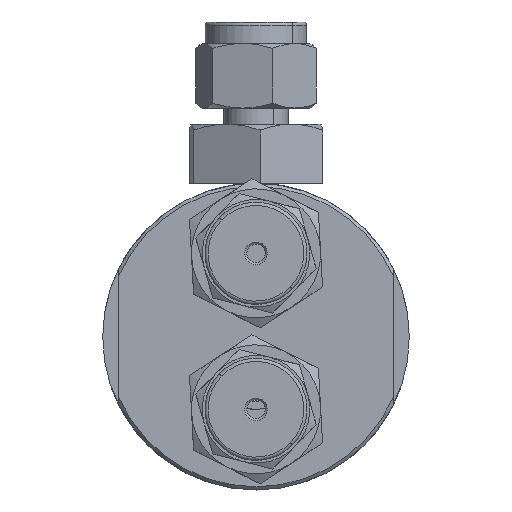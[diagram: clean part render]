
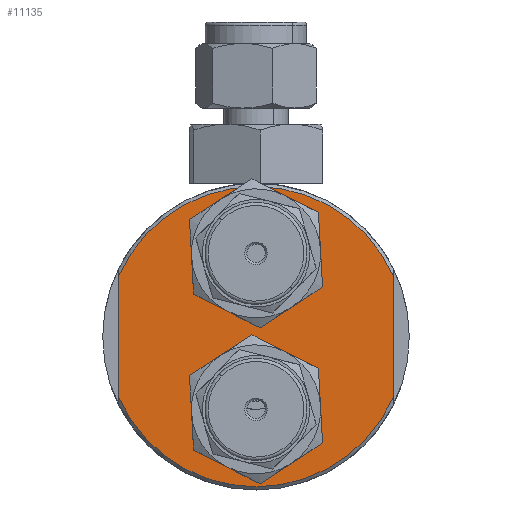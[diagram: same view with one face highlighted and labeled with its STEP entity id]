
A CAD part, front view. The second image highlights one B-rep face of the part: STEP entity #11135.
In plain terms, the highlighted planar face has unit normal (0, -1, 0).
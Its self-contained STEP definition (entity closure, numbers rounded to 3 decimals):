
#14 = DIRECTION ( 'NONE',  ( 0., 0., -1. ) ) ;
#95 = CIRCLE ( 'NONE', #2852, 13.95 ) ;
#405 = EDGE_CURVE ( 'NONE', #8038, #8802, #11338, .T. ) ;
#619 = CARTESIAN_POINT ( 'NONE',  ( 23.954, -5.271, -14.015 ) ) ;
#718 = ORIENTED_EDGE ( 'NONE', *, *, #10459, .T. ) ;
#837 = CIRCLE ( 'NONE', #9164, 5.25 ) ;
#1100 = EDGE_LOOP ( 'NONE', ( #7148, #7192 ) ) ;
#1820 = DIRECTION ( 'NONE',  ( 0., -1., 0. ) ) ;
#2136 = VERTEX_POINT ( 'NONE', #8915 ) ;
#2445 = ORIENTED_EDGE ( 'NONE', *, *, #405, .T. ) ;
#2587 = AXIS2_PLACEMENT_3D ( 'NONE', #8164, #5995, #11524 ) ;
#2671 = CIRCLE ( 'NONE', #3939, 5.25 ) ;
#2780 = EDGE_CURVE ( 'NONE', #3697, #7690, #95, .T. ) ;
#2852 = AXIS2_PLACEMENT_3D ( 'NONE', #6632, #3325, #14 ) ;
#2884 = ORIENTED_EDGE ( 'NONE', *, *, #13473, .F. ) ;
#2940 = FACE_BOUND ( 'NONE', #4383, .T. ) ;
#3325 = DIRECTION ( 'NONE',  ( 0., -1., 0. ) ) ;
#3353 = CARTESIAN_POINT ( 'NONE',  ( 23.954, -5.271, -5.66 ) ) ;
#3551 = ORIENTED_EDGE ( 'NONE', *, *, #3741, .F. ) ;
#3578 = CARTESIAN_POINT ( 'NONE',  ( 36.704, -5.271, -6.75 ) ) ;
#3676 = ORIENTED_EDGE ( 'NONE', *, *, #7242, .F. ) ;
#3697 = VERTEX_POINT ( 'NONE', #9125 ) ;
#3741 = EDGE_CURVE ( 'NONE', #2136, #8802, #10868, .T. ) ;
#3939 = AXIS2_PLACEMENT_3D ( 'NONE', #13991, #7219, #8482 ) ;
#4099 = DIRECTION ( 'NONE',  ( 0., 0., -1. ) ) ;
#4383 = EDGE_LOOP ( 'NONE', ( #2884, #5450 ) ) ;
#4496 = DIRECTION ( 'NONE',  ( 0., -1., 0. ) ) ;
#5110 = VECTOR ( 'NONE', #14017, 1000. ) ;
#5141 = DIRECTION ( 'NONE',  ( 0., 0., 1. ) ) ;
#5450 = ORIENTED_EDGE ( 'NONE', *, *, #5863, .F. ) ;
#5718 = CIRCLE ( 'NONE', #13466, 5.25 ) ;
#5863 = EDGE_CURVE ( 'NONE', #9562, #12756, #9640, .T. ) ;
#5995 = DIRECTION ( 'NONE',  ( 0., -1., 0. ) ) ;
#6055 = DIRECTION ( 'NONE',  ( 0., -1., 0. ) ) ;
#6095 = DIRECTION ( 'NONE',  ( 0., 0., -1. ) ) ;
#6188 = CARTESIAN_POINT ( 'NONE',  ( 36.704, -5.271, 0. ) ) ;
#6576 = CARTESIAN_POINT ( 'NONE',  ( 36.704, -5.271, -12. ) ) ;
#6632 = CARTESIAN_POINT ( 'NONE',  ( 36.704, -5.271, 0. ) ) ;
#6833 = ORIENTED_EDGE ( 'NONE', *, *, #2780, .T. ) ;
#6918 = DIRECTION ( 'NONE',  ( 0., 0., -1. ) ) ;
#7148 = ORIENTED_EDGE ( 'NONE', *, *, #12707, .F. ) ;
#7192 = ORIENTED_EDGE ( 'NONE', *, *, #12412, .F. ) ;
#7219 = DIRECTION ( 'NONE',  ( 0., -1., 0. ) ) ;
#7242 = EDGE_CURVE ( 'NONE', #8038, #7690, #9101, .T. ) ;
#7443 = DIRECTION ( 'NONE',  ( 0., -1., 0. ) ) ;
#7672 = EDGE_LOOP ( 'NONE', ( #3676, #2445, #3551, #718, #6833 ) ) ;
#7690 = VERTEX_POINT ( 'NONE', #8322 ) ;
#8038 = VERTEX_POINT ( 'NONE', #3353 ) ;
#8164 = CARTESIAN_POINT ( 'NONE',  ( 36.704, -5.271, -6.75 ) ) ;
#8322 = CARTESIAN_POINT ( 'NONE',  ( 23.954, -5.271, 5.66 ) ) ;
#8482 = DIRECTION ( 'NONE',  ( 0., 0., -1. ) ) ;
#8776 = CARTESIAN_POINT ( 'NONE',  ( 36.704, -5.271, 2.5 ) ) ;
#8802 = VERTEX_POINT ( 'NONE', #13244 ) ;
#8860 = FACE_BOUND ( 'NONE', #1100, .T. ) ;
#8915 = CARTESIAN_POINT ( 'NONE',  ( 49.454, -5.271, 5.66 ) ) ;
#9101 = LINE ( 'NONE', #619, #10344 ) ;
#9125 = CARTESIAN_POINT ( 'NONE',  ( 36.704, -5.271, 13.95 ) ) ;
#9164 = AXIS2_PLACEMENT_3D ( 'NONE', #13478, #4496, #13427 ) ;
#9323 = DIRECTION ( 'NONE',  ( 0., -1., 0. ) ) ;
#9562 = VERTEX_POINT ( 'NONE', #12189 ) ;
#9569 = FACE_OUTER_BOUND ( 'NONE', #7672, .T. ) ;
#9640 = CIRCLE ( 'NONE', #2587, 5.25 ) ;
#10009 = CARTESIAN_POINT ( 'NONE',  ( 36.704, -5.271, 13. ) ) ;
#10344 = VECTOR ( 'NONE', #5141, 1000. ) ;
#10456 = CARTESIAN_POINT ( 'NONE',  ( 36.704, -5.271, 0. ) ) ;
#10459 = EDGE_CURVE ( 'NONE', #2136, #3697, #13469, .T. ) ;
#10749 = AXIS2_PLACEMENT_3D ( 'NONE', #6188, #1820, #4099 ) ;
#10868 = LINE ( 'NONE', #11599, #5110 ) ;
#11135 = ADVANCED_FACE ( 'NONE', ( #8860, #2940, #9569 ), #13830, .T. ) ;
#11338 = CIRCLE ( 'NONE', #11469, 13.95 ) ;
#11469 = AXIS2_PLACEMENT_3D ( 'NONE', #14223, #7443, #14128 ) ;
#11507 = AXIS2_PLACEMENT_3D ( 'NONE', #10456, #9323, #6095 ) ;
#11524 = DIRECTION ( 'NONE',  ( 0., 0., -1. ) ) ;
#11599 = CARTESIAN_POINT ( 'NONE',  ( 49.454, -5.271, -14.015 ) ) ;
#12189 = CARTESIAN_POINT ( 'NONE',  ( 36.704, -5.271, -1.5 ) ) ;
#12412 = EDGE_CURVE ( 'NONE', #13725, #13715, #2671, .T. ) ;
#12707 = EDGE_CURVE ( 'NONE', #13715, #13725, #837, .T. ) ;
#12756 = VERTEX_POINT ( 'NONE', #6576 ) ;
#13244 = CARTESIAN_POINT ( 'NONE',  ( 49.454, -5.271, -5.66 ) ) ;
#13427 = DIRECTION ( 'NONE',  ( 0., 0., -1. ) ) ;
#13466 = AXIS2_PLACEMENT_3D ( 'NONE', #3578, #6055, #6918 ) ;
#13469 = CIRCLE ( 'NONE', #10749, 13.95 ) ;
#13473 = EDGE_CURVE ( 'NONE', #12756, #9562, #5718, .T. ) ;
#13478 = CARTESIAN_POINT ( 'NONE',  ( 36.704, -5.271, 7.75 ) ) ;
#13715 = VERTEX_POINT ( 'NONE', #8776 ) ;
#13725 = VERTEX_POINT ( 'NONE', #10009 ) ;
#13830 = PLANE ( 'NONE',  #11507 ) ;
#13991 = CARTESIAN_POINT ( 'NONE',  ( 36.704, -5.271, 7.75 ) ) ;
#14017 = DIRECTION ( 'NONE',  ( 0., 0., -1. ) ) ;
#14128 = DIRECTION ( 'NONE',  ( 0., 0., -1. ) ) ;
#14223 = CARTESIAN_POINT ( 'NONE',  ( 36.704, -5.271, 0. ) ) ;
